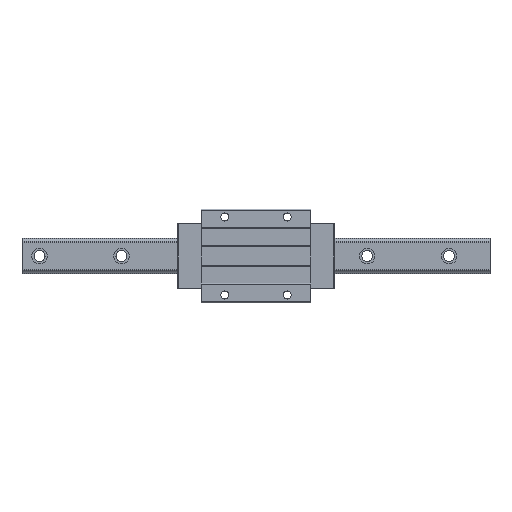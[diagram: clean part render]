
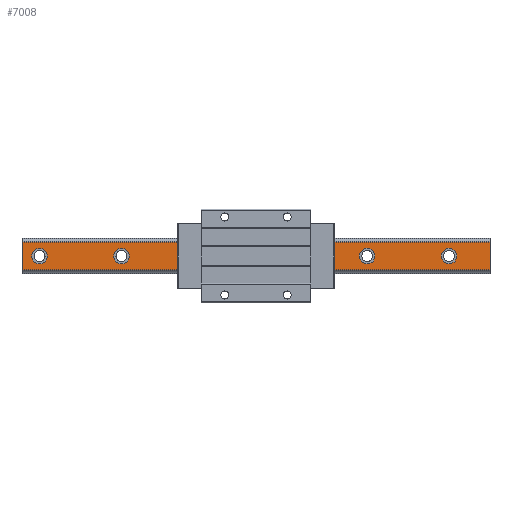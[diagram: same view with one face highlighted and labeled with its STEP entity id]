
A CAD part, top view. The second image highlights one B-rep face of the part: STEP entity #7008.
In plain terms, the highlighted planar face has unit normal (0, 0, 1).
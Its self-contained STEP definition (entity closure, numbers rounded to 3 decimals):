
#216 = EDGE_CURVE ( 'NONE', #2821, #4138, #613, .T. ) ;
#300 = EDGE_CURVE ( 'NONE', #2079, #3073, #4437, .T. ) ;
#356 = EDGE_CURVE ( 'NONE', #6530, #1516, #5333, .T. ) ;
#423 = LINE ( 'NONE', #5017, #3390 ) ;
#442 = DIRECTION ( 'NONE',  ( 0., 0., 1. ) ) ;
#581 = ORIENTED_EDGE ( 'NONE', *, *, #7239, .F. ) ;
#613 = CIRCLE ( 'NONE', #5387, 10. ) ;
#642 = AXIS2_PLACEMENT_3D ( 'NONE', #1191, #3475, #5647 ) ;
#701 = CARTESIAN_POINT ( 'NONE',  ( -300., 17.738, 32. ) ) ;
#732 = DIRECTION ( 'NONE',  ( 1., 0., 0. ) ) ;
#740 = VERTEX_POINT ( 'NONE', #4746 ) ;
#741 = DIRECTION ( 'NONE',  ( 0., 0., 1. ) ) ;
#751 = DIRECTION ( 'NONE',  ( 0., -1., 0. ) ) ;
#771 = VERTEX_POINT ( 'NONE', #4114 ) ;
#817 = ORIENTED_EDGE ( 'NONE', *, *, #5871, .F. ) ;
#823 = LINE ( 'NONE', #5352, #6358 ) ;
#897 = EDGE_LOOP ( 'NONE', ( #3089, #1411 ) ) ;
#938 = FACE_BOUND ( 'NONE', #1432, .T. ) ;
#940 = CARTESIAN_POINT ( 'NONE',  ( -277.5, 0., 32. ) ) ;
#1019 = DIRECTION ( 'NONE',  ( 0., 0., 1. ) ) ;
#1098 = CARTESIAN_POINT ( 'NONE',  ( -277.5, 0., 32. ) ) ;
#1107 = AXIS2_PLACEMENT_3D ( 'NONE', #3594, #1946, #5280 ) ;
#1191 = CARTESIAN_POINT ( 'NONE',  ( -172.5, 0., 32. ) ) ;
#1198 = DIRECTION ( 'NONE',  ( 1., 0., 0. ) ) ;
#1226 = AXIS2_PLACEMENT_3D ( 'NONE', #2357, #4085, #5172 ) ;
#1302 = DIRECTION ( 'NONE',  ( 1., 0., 0. ) ) ;
#1367 = ORIENTED_EDGE ( 'NONE', *, *, #356, .T. ) ;
#1411 = ORIENTED_EDGE ( 'NONE', *, *, #300, .F. ) ;
#1425 = ORIENTED_EDGE ( 'NONE', *, *, #6798, .T. ) ;
#1432 = EDGE_LOOP ( 'NONE', ( #817, #6965 ) ) ;
#1504 = FACE_BOUND ( 'NONE', #897, .T. ) ;
#1516 = VERTEX_POINT ( 'NONE', #701 ) ;
#1541 = FACE_BOUND ( 'NONE', #2285, .T. ) ;
#1544 = CARTESIAN_POINT ( 'NONE',  ( -267.5, 0., 32. ) ) ;
#1567 = VECTOR ( 'NONE', #5961, 1000. ) ;
#1572 = EDGE_CURVE ( 'NONE', #4138, #2821, #5050, .T. ) ;
#1584 = CARTESIAN_POINT ( 'NONE',  ( 300., -17.738, 32. ) ) ;
#1616 = DIRECTION ( 'NONE',  ( -1., 0., 0. ) ) ;
#1702 = CIRCLE ( 'NONE', #1226, 10. ) ;
#1765 = CARTESIAN_POINT ( 'NONE',  ( -67.5, 0., 32. ) ) ;
#1805 = CARTESIAN_POINT ( 'NONE',  ( -67.5, 0., 32. ) ) ;
#1890 = DIRECTION ( 'NONE',  ( 0., 0., 1. ) ) ;
#1946 = DIRECTION ( 'NONE',  ( 0., 0., 1. ) ) ;
#2061 = CIRCLE ( 'NONE', #1107, 10. ) ;
#2076 = ORIENTED_EDGE ( 'NONE', *, *, #5377, .F. ) ;
#2079 = VERTEX_POINT ( 'NONE', #4137 ) ;
#2102 = FACE_OUTER_BOUND ( 'NONE', #4425, .T. ) ;
#2173 = FACE_BOUND ( 'NONE', #6890, .T. ) ;
#2192 = VERTEX_POINT ( 'NONE', #5517 ) ;
#2239 = AXIS2_PLACEMENT_3D ( 'NONE', #1805, #4088, #6363 ) ;
#2285 = EDGE_LOOP ( 'NONE', ( #5847, #6240 ) ) ;
#2357 = CARTESIAN_POINT ( 'NONE',  ( 37.5, 0., 32. ) ) ;
#2379 = CARTESIAN_POINT ( 'NONE',  ( 47.5, 0., 32. ) ) ;
#2427 = CIRCLE ( 'NONE', #7084, 10. ) ;
#2454 = EDGE_CURVE ( 'NONE', #6777, #3768, #5463, .T. ) ;
#2469 = ORIENTED_EDGE ( 'NONE', *, *, #4646, .F. ) ;
#2486 = DIRECTION ( 'NONE',  ( 1., 0., 0. ) ) ;
#2521 = CARTESIAN_POINT ( 'NONE',  ( 142.5, 0., 32. ) ) ;
#2528 = AXIS2_PLACEMENT_3D ( 'NONE', #5899, #741, #1302 ) ;
#2617 = ORIENTED_EDGE ( 'NONE', *, *, #3167, .F. ) ;
#2717 = EDGE_CURVE ( 'NONE', #4182, #740, #4427, .T. ) ;
#2821 = VERTEX_POINT ( 'NONE', #3601 ) ;
#2837 = AXIS2_PLACEMENT_3D ( 'NONE', #1765, #6359, #1198 ) ;
#2887 = CARTESIAN_POINT ( 'NONE',  ( -57.5, 0., 32. ) ) ;
#3073 = VERTEX_POINT ( 'NONE', #4503 ) ;
#3079 = DIRECTION ( 'NONE',  ( 0., 0., 1. ) ) ;
#3089 = ORIENTED_EDGE ( 'NONE', *, *, #4744, .F. ) ;
#3149 = EDGE_LOOP ( 'NONE', ( #3347, #6641 ) ) ;
#3167 = EDGE_CURVE ( 'NONE', #3537, #3870, #1702, .T. ) ;
#3347 = ORIENTED_EDGE ( 'NONE', *, *, #1572, .F. ) ;
#3390 = VECTOR ( 'NONE', #1616, 1000. ) ;
#3404 = AXIS2_PLACEMENT_3D ( 'NONE', #940, #1019, #5583 ) ;
#3475 = DIRECTION ( 'NONE',  ( 0., 0., 1. ) ) ;
#3487 = AXIS2_PLACEMENT_3D ( 'NONE', #2521, #6599, #2486 ) ;
#3494 = AXIS2_PLACEMENT_3D ( 'NONE', #4386, #6766, #6102 ) ;
#3537 = VERTEX_POINT ( 'NONE', #2379 ) ;
#3594 = CARTESIAN_POINT ( 'NONE',  ( -172.5, 0., 32. ) ) ;
#3601 = CARTESIAN_POINT ( 'NONE',  ( 132.5, 0., 32. ) ) ;
#3683 = DIRECTION ( 'NONE',  ( 1., 0., 0. ) ) ;
#3722 = DIRECTION ( 'NONE',  ( 0., -1., 0. ) ) ;
#3724 = CARTESIAN_POINT ( 'NONE',  ( 300., 17.738, 32. ) ) ;
#3768 = VERTEX_POINT ( 'NONE', #2887 ) ;
#3786 = FACE_BOUND ( 'NONE', #3149, .T. ) ;
#3870 = VERTEX_POINT ( 'NONE', #4312 ) ;
#3943 = CARTESIAN_POINT ( 'NONE',  ( 300., 17.738, 32. ) ) ;
#4073 = AXIS2_PLACEMENT_3D ( 'NONE', #1098, #442, #5598 ) ;
#4085 = DIRECTION ( 'NONE',  ( 0., 0., 1. ) ) ;
#4088 = DIRECTION ( 'NONE',  ( 0., 0., 1. ) ) ;
#4104 = VERTEX_POINT ( 'NONE', #1584 ) ;
#4114 = CARTESIAN_POINT ( 'NONE',  ( -300., -17.738, 32. ) ) ;
#4137 = CARTESIAN_POINT ( 'NONE',  ( 237.5, 0., 32. ) ) ;
#4138 = VERTEX_POINT ( 'NONE', #5728 ) ;
#4160 = CIRCLE ( 'NONE', #2837, 10. ) ;
#4182 = VERTEX_POINT ( 'NONE', #1544 ) ;
#4240 = EDGE_CURVE ( 'NONE', #740, #4182, #6847, .T. ) ;
#4257 = CARTESIAN_POINT ( 'NONE',  ( -182.5, 0., 32. ) ) ;
#4312 = CARTESIAN_POINT ( 'NONE',  ( 27.5, 0., 32. ) ) ;
#4386 = CARTESIAN_POINT ( 'NONE',  ( 300., -17.738, 32. ) ) ;
#4425 = EDGE_LOOP ( 'NONE', ( #1425, #4601, #2469, #1367 ) ) ;
#4427 = CIRCLE ( 'NONE', #4073, 10. ) ;
#4437 = CIRCLE ( 'NONE', #6690, 10. ) ;
#4459 = PLANE ( 'NONE',  #3494 ) ;
#4503 = CARTESIAN_POINT ( 'NONE',  ( 257.5, 0., 32. ) ) ;
#4568 = CIRCLE ( 'NONE', #2528, 10. ) ;
#4601 = ORIENTED_EDGE ( 'NONE', *, *, #5702, .F. ) ;
#4646 = EDGE_CURVE ( 'NONE', #6530, #4104, #5406, .T. ) ;
#4744 = EDGE_CURVE ( 'NONE', #3073, #2079, #2427, .T. ) ;
#4746 = CARTESIAN_POINT ( 'NONE',  ( -287.5, 0., 32. ) ) ;
#4922 = DIRECTION ( 'NONE',  ( 1., 0., 0. ) ) ;
#4949 = FACE_BOUND ( 'NONE', #6364, .T. ) ;
#5017 = CARTESIAN_POINT ( 'NONE',  ( 300., -17.738, 32. ) ) ;
#5050 = CIRCLE ( 'NONE', #3487, 10. ) ;
#5172 = DIRECTION ( 'NONE',  ( 1., 0., 0. ) ) ;
#5280 = DIRECTION ( 'NONE',  ( 1., 0., 0. ) ) ;
#5333 = LINE ( 'NONE', #3724, #1567 ) ;
#5352 = CARTESIAN_POINT ( 'NONE',  ( -300., -17.738, 32. ) ) ;
#5377 = EDGE_CURVE ( 'NONE', #3768, #6777, #4160, .T. ) ;
#5387 = AXIS2_PLACEMENT_3D ( 'NONE', #5852, #5786, #732 ) ;
#5406 = LINE ( 'NONE', #5482, #6143 ) ;
#5463 = CIRCLE ( 'NONE', #2239, 10. ) ;
#5482 = CARTESIAN_POINT ( 'NONE',  ( 300., -17.738, 32. ) ) ;
#5517 = CARTESIAN_POINT ( 'NONE',  ( -162.5, 0., 32. ) ) ;
#5583 = DIRECTION ( 'NONE',  ( 1., 0., 0. ) ) ;
#5598 = DIRECTION ( 'NONE',  ( 1., 0., 0. ) ) ;
#5647 = DIRECTION ( 'NONE',  ( 1., 0., 0. ) ) ;
#5702 = EDGE_CURVE ( 'NONE', #4104, #771, #423, .T. ) ;
#5728 = CARTESIAN_POINT ( 'NONE',  ( 152.5, 0., 32. ) ) ;
#5786 = DIRECTION ( 'NONE',  ( 0., 0., 1. ) ) ;
#5838 = CARTESIAN_POINT ( 'NONE',  ( -77.5, 0., 32. ) ) ;
#5847 = ORIENTED_EDGE ( 'NONE', *, *, #2717, .F. ) ;
#5852 = CARTESIAN_POINT ( 'NONE',  ( 142.5, 0., 32. ) ) ;
#5871 = EDGE_CURVE ( 'NONE', #2192, #7314, #6130, .T. ) ;
#5889 = CARTESIAN_POINT ( 'NONE',  ( 247.5, 0., 32. ) ) ;
#5899 = CARTESIAN_POINT ( 'NONE',  ( 37.5, 0., 32. ) ) ;
#5961 = DIRECTION ( 'NONE',  ( -1., 0., 0. ) ) ;
#6012 = ORIENTED_EDGE ( 'NONE', *, *, #2454, .F. ) ;
#6102 = DIRECTION ( 'NONE',  ( 0., -1., 0. ) ) ;
#6130 = CIRCLE ( 'NONE', #642, 10. ) ;
#6143 = VECTOR ( 'NONE', #3722, 1000. ) ;
#6240 = ORIENTED_EDGE ( 'NONE', *, *, #4240, .F. ) ;
#6358 = VECTOR ( 'NONE', #751, 1000. ) ;
#6359 = DIRECTION ( 'NONE',  ( 0., 0., 1. ) ) ;
#6363 = DIRECTION ( 'NONE',  ( 1., 0., 0. ) ) ;
#6364 = EDGE_LOOP ( 'NONE', ( #2617, #581 ) ) ;
#6530 = VERTEX_POINT ( 'NONE', #3943 ) ;
#6599 = DIRECTION ( 'NONE',  ( 0., 0., 1. ) ) ;
#6641 = ORIENTED_EDGE ( 'NONE', *, *, #216, .F. ) ;
#6690 = AXIS2_PLACEMENT_3D ( 'NONE', #5889, #3079, #3683 ) ;
#6766 = DIRECTION ( 'NONE',  ( 0., 0., -1. ) ) ;
#6777 = VERTEX_POINT ( 'NONE', #5838 ) ;
#6798 = EDGE_CURVE ( 'NONE', #1516, #771, #823, .T. ) ;
#6847 = CIRCLE ( 'NONE', #3404, 10. ) ;
#6876 = EDGE_CURVE ( 'NONE', #7314, #2192, #2061, .T. ) ;
#6890 = EDGE_LOOP ( 'NONE', ( #2076, #6012 ) ) ;
#6965 = ORIENTED_EDGE ( 'NONE', *, *, #6876, .F. ) ;
#7008 = ADVANCED_FACE ( 'NONE', ( #1504, #3786, #4949, #2173, #938, #1541, #2102 ), #4459, .F. ) ;
#7037 = CARTESIAN_POINT ( 'NONE',  ( 247.5, 0., 32. ) ) ;
#7084 = AXIS2_PLACEMENT_3D ( 'NONE', #7037, #1890, #4922 ) ;
#7239 = EDGE_CURVE ( 'NONE', #3870, #3537, #4568, .T. ) ;
#7314 = VERTEX_POINT ( 'NONE', #4257 ) ;
